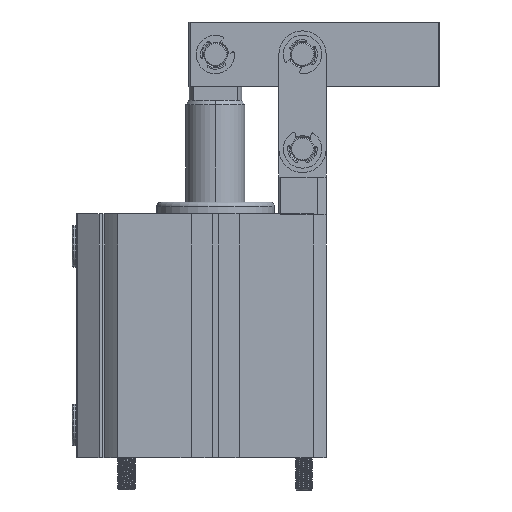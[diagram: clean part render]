
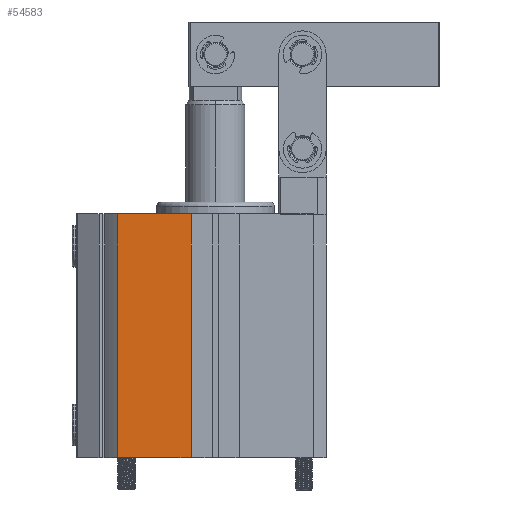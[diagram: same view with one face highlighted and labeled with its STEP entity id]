
A CAD part, front view. The second image highlights one B-rep face of the part: STEP entity #54583.
In plain terms, the highlighted planar face has unit normal (0, -1, 0).
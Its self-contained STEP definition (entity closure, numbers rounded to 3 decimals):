
#35774 = PLANE('',#35775);
#35775 = AXIS2_PLACEMENT_3D('',#35776,#35777,#35778);
#35776 = CARTESIAN_POINT('',(9.464,54.036,82.5));
#35777 = DIRECTION('',(0.,0.,1.));
#35778 = DIRECTION('',(1.,0.,-0.));
#35955 = PLANE('',#35956);
#35956 = AXIS2_PLACEMENT_3D('',#35957,#35958,#35959);
#35957 = CARTESIAN_POINT('',(9.464,54.036,0.));
#35958 = DIRECTION('',(0.,0.,1.));
#35959 = DIRECTION('',(1.,0.,-0.));
#51103 = VERTEX_POINT('',#51104);
#51104 = CARTESIAN_POINT('',(22.393,7.075,82.5));
#51119 = CYLINDRICAL_SURFACE('',#51120,50.);
#51120 = AXIS2_PLACEMENT_3D('',#51121,#51122,#51123);
#51121 = CARTESIAN_POINT('',(55.464,44.575,82.5));
#51122 = DIRECTION('',(-0.,-0.,-1.));
#51123 = DIRECTION('',(-1.,0.,0.));
#51131 = EDGE_CURVE('',#51103,#51132,#51134,.T.);
#51132 = VERTEX_POINT('',#51133);
#51133 = CARTESIAN_POINT('',(47.214,7.075,82.5));
#51134 = SURFACE_CURVE('',#51135,(#51139,#51146),.PCURVE_S1.);
#51135 = LINE('',#51136,#51137);
#51136 = CARTESIAN_POINT('',(37.914,7.075,82.5));
#51137 = VECTOR('',#51138,1.);
#51138 = DIRECTION('',(1.,-0.,-0.));
#51139 = PCURVE('',#35774,#51140);
#51140 = DEFINITIONAL_REPRESENTATION('',(#51141),#51145);
#51141 = LINE('',#51142,#51143);
#51142 = CARTESIAN_POINT('',(28.45,-46.961));
#51143 = VECTOR('',#51144,1.);
#51144 = DIRECTION('',(1.,-0.));
#51145 = ( GEOMETRIC_REPRESENTATION_CONTEXT(2) 
PARAMETRIC_REPRESENTATION_CONTEXT() REPRESENTATION_CONTEXT('2D SPACE',''
  ) );
#51146 = PCURVE('',#51147,#51152);
#51147 = PLANE('',#51148);
#51148 = AXIS2_PLACEMENT_3D('',#51149,#51150,#51151);
#51149 = CARTESIAN_POINT('',(47.214,7.075,82.5));
#51150 = DIRECTION('',(0.,1.,-0.));
#51151 = DIRECTION('',(0.,0.,1.));
#51152 = DEFINITIONAL_REPRESENTATION('',(#51153),#51157);
#51153 = LINE('',#51154,#51155);
#51154 = CARTESIAN_POINT('',(0.,-9.3));
#51155 = VECTOR('',#51156,1.);
#51156 = DIRECTION('',(0.,1.));
#51157 = ( GEOMETRIC_REPRESENTATION_CONTEXT(2) 
PARAMETRIC_REPRESENTATION_CONTEXT() REPRESENTATION_CONTEXT('2D SPACE',''
  ) );
#51175 = PLANE('',#51176);
#51176 = AXIS2_PLACEMENT_3D('',#51177,#51178,#51179);
#51177 = CARTESIAN_POINT('',(47.214,7.075,82.5));
#51178 = DIRECTION('',(-1.,0.,0.));
#51179 = DIRECTION('',(0.,0.,1.));
#53853 = VERTEX_POINT('',#53854);
#53854 = CARTESIAN_POINT('',(47.214,7.075,0.));
#53875 = EDGE_CURVE('',#53876,#53853,#53878,.T.);
#53876 = VERTEX_POINT('',#53877);
#53877 = CARTESIAN_POINT('',(22.393,7.075,0.));
#53878 = SURFACE_CURVE('',#53879,(#53883,#53890),.PCURVE_S1.);
#53879 = LINE('',#53880,#53881);
#53880 = CARTESIAN_POINT('',(47.214,7.075,0.));
#53881 = VECTOR('',#53882,1.);
#53882 = DIRECTION('',(1.,-0.,-0.));
#53883 = PCURVE('',#35955,#53884);
#53884 = DEFINITIONAL_REPRESENTATION('',(#53885),#53889);
#53885 = LINE('',#53886,#53887);
#53886 = CARTESIAN_POINT('',(37.75,-46.961));
#53887 = VECTOR('',#53888,1.);
#53888 = DIRECTION('',(1.,-0.));
#53889 = ( GEOMETRIC_REPRESENTATION_CONTEXT(2) 
PARAMETRIC_REPRESENTATION_CONTEXT() REPRESENTATION_CONTEXT('2D SPACE',''
  ) );
#53890 = PCURVE('',#51147,#53891);
#53891 = DEFINITIONAL_REPRESENTATION('',(#53892),#53896);
#53892 = LINE('',#53893,#53894);
#53893 = CARTESIAN_POINT('',(-82.5,0.));
#53894 = VECTOR('',#53895,1.);
#53895 = DIRECTION('',(0.,1.));
#53896 = ( GEOMETRIC_REPRESENTATION_CONTEXT(2) 
PARAMETRIC_REPRESENTATION_CONTEXT() REPRESENTATION_CONTEXT('2D SPACE',''
  ) );
#54561 = EDGE_CURVE('',#51103,#53876,#54562,.T.);
#54562 = SURFACE_CURVE('',#54563,(#54567,#54574),.PCURVE_S1.);
#54563 = LINE('',#54564,#54565);
#54564 = CARTESIAN_POINT('',(22.393,7.075,82.5));
#54565 = VECTOR('',#54566,1.);
#54566 = DIRECTION('',(-0.,-0.,-1.));
#54567 = PCURVE('',#51119,#54568);
#54568 = DEFINITIONAL_REPRESENTATION('',(#54569),#54573);
#54569 = LINE('',#54570,#54571);
#54570 = CARTESIAN_POINT('',(5.435,0.));
#54571 = VECTOR('',#54572,1.);
#54572 = DIRECTION('',(0.,1.));
#54573 = ( GEOMETRIC_REPRESENTATION_CONTEXT(2) 
PARAMETRIC_REPRESENTATION_CONTEXT() REPRESENTATION_CONTEXT('2D SPACE',''
  ) );
#54574 = PCURVE('',#51147,#54575);
#54575 = DEFINITIONAL_REPRESENTATION('',(#54576),#54580);
#54576 = LINE('',#54577,#54578);
#54577 = CARTESIAN_POINT('',(0.,-24.822));
#54578 = VECTOR('',#54579,1.);
#54579 = DIRECTION('',(-1.,0.));
#54580 = ( GEOMETRIC_REPRESENTATION_CONTEXT(2) 
PARAMETRIC_REPRESENTATION_CONTEXT() REPRESENTATION_CONTEXT('2D SPACE',''
  ) );
#54583 = ADVANCED_FACE('',(#54584),#51147,.F.);
#54584 = FACE_BOUND('',#54585,.T.);
#54585 = EDGE_LOOP('',(#54586,#54587,#54608,#54609));
#54586 = ORIENTED_EDGE('',*,*,#53875,.T.);
#54587 = ORIENTED_EDGE('',*,*,#54588,.F.);
#54588 = EDGE_CURVE('',#51132,#53853,#54589,.T.);
#54589 = SURFACE_CURVE('',#54590,(#54594,#54601),.PCURVE_S1.);
#54590 = LINE('',#54591,#54592);
#54591 = CARTESIAN_POINT('',(47.214,7.075,82.5));
#54592 = VECTOR('',#54593,1.);
#54593 = DIRECTION('',(-0.,-0.,-1.));
#54594 = PCURVE('',#51147,#54595);
#54595 = DEFINITIONAL_REPRESENTATION('',(#54596),#54600);
#54596 = LINE('',#54597,#54598);
#54597 = CARTESIAN_POINT('',(0.,0.));
#54598 = VECTOR('',#54599,1.);
#54599 = DIRECTION('',(-1.,0.));
#54600 = ( GEOMETRIC_REPRESENTATION_CONTEXT(2) 
PARAMETRIC_REPRESENTATION_CONTEXT() REPRESENTATION_CONTEXT('2D SPACE',''
  ) );
#54601 = PCURVE('',#51175,#54602);
#54602 = DEFINITIONAL_REPRESENTATION('',(#54603),#54607);
#54603 = LINE('',#54604,#54605);
#54604 = CARTESIAN_POINT('',(0.,0.));
#54605 = VECTOR('',#54606,1.);
#54606 = DIRECTION('',(-1.,0.));
#54607 = ( GEOMETRIC_REPRESENTATION_CONTEXT(2) 
PARAMETRIC_REPRESENTATION_CONTEXT() REPRESENTATION_CONTEXT('2D SPACE',''
  ) );
#54608 = ORIENTED_EDGE('',*,*,#51131,.F.);
#54609 = ORIENTED_EDGE('',*,*,#54561,.T.);
